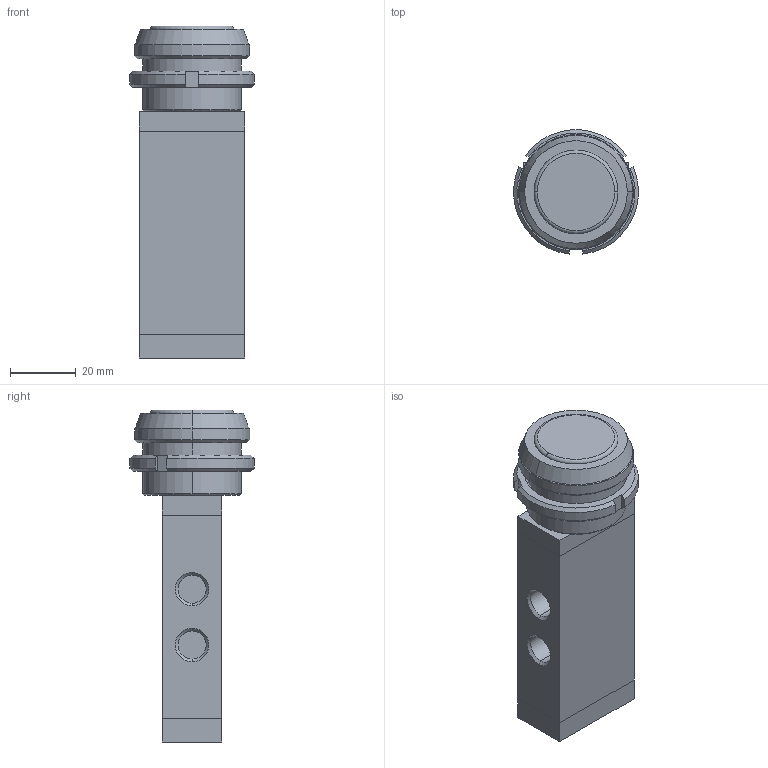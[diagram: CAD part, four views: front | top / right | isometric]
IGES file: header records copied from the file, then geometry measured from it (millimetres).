
Global section: file name: No Iges File Name specified; native system: AutoDesk Inventor R11.0; preprocessor: AutoDesk Inventor Iges Exporter R11.0; author: No Author specified; organization: No Organization specified; date: 20061219.114159; units: millimetre
Bounding box: 37.89 x 37.82 x 101 mm (x, y, z)
Volume: 62704.8 mm3; surface area: 14678.7 mm2
Topology: 2 solids, 2 shells, 87 faces, 196 edges, 122 vertices
Faces by surface type: plane 33, bspline 29, cone 14, cylinder 7, torus 2, revolution 2
